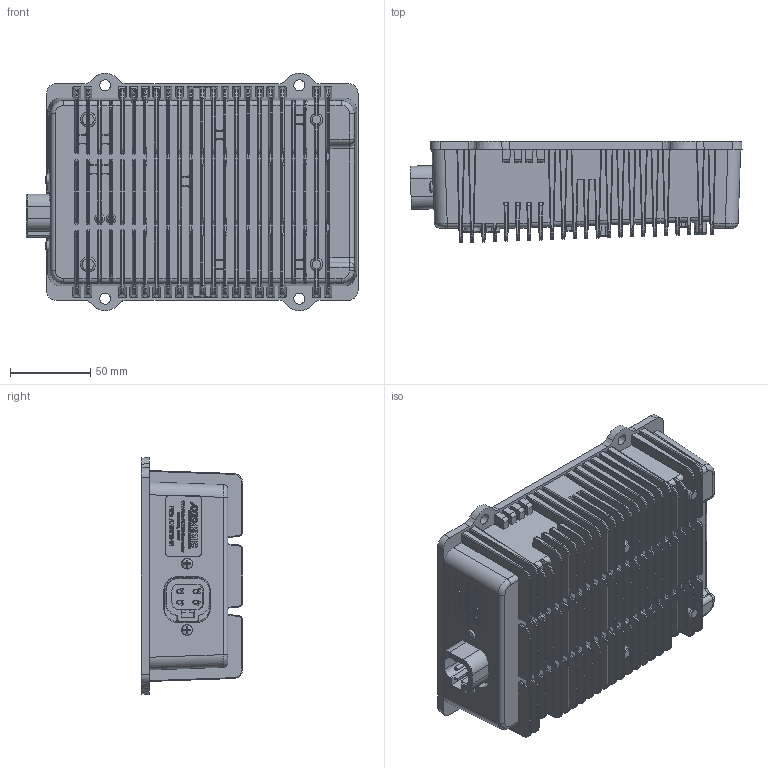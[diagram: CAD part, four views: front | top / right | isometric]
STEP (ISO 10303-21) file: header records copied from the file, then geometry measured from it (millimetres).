
FILE_DESCRIPTION(/* description */ (''),/* implementation_level */ '2;1');
FILE_NAME(/* name */ 'S:\Projects\PS-12-24-6A, AX081542, Proj_23129\UNIT ASSEMBLY\RELEASED\A\AX081542.stp',/* time_stamp */ '2024-03-27T23:11:39-04:00',/* author */ ('tfisher'),/* organization */ (''),/* preprocessor_version */ 'ST-DEVELOPER v18.1',/* originating_system */ 'Autodesk Inventor 2021',/* authorisation */ '');
FILE_SCHEMA (('CONFIG_CONTROL_DESIGN'));
Products named in the file (1): AX081542 for STEP
Bounding box: 206.82 x 63.25 x 147.93 mm (x, y, z)
Volume: 1260837.1 mm3; surface area: 152141.3 mm2
Topology: 1 solids, 1 shells, 3442 faces, 8927 edges, 5663 vertices
Faces by surface type: plane 1471, bspline 955, cylinder 888, cone 80, torus 44, sphere 4
Full cylindrical faces by diameter (mm): 2.388 x4, 8.9 x6
Entity records: 122831 total; most frequent: CARTESIAN_POINT 38784, ORIENTED_EDGE 17838, DIRECTION 15065, EDGE_CURVE 8919, VERTEX_POINT 5663, LINE 5097, VECTOR 5097, AXIS2_PLACEMENT_3D 4984
